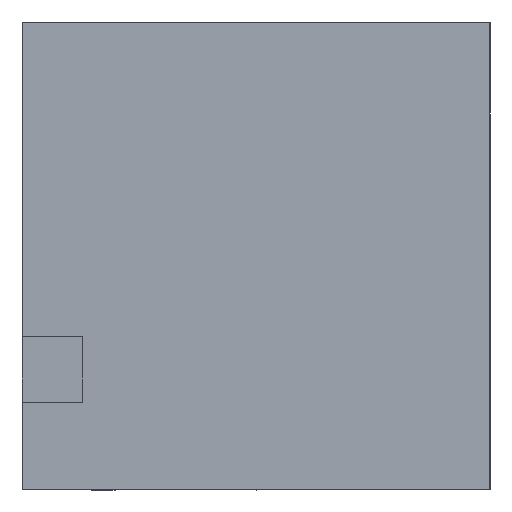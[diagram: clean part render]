
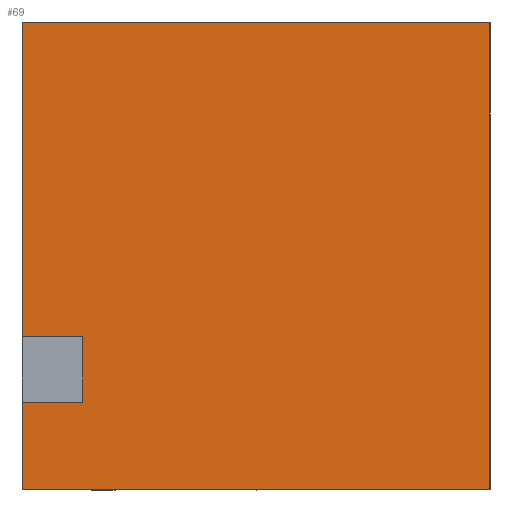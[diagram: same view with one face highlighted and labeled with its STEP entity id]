
A CAD part, left-side view. The second image highlights one B-rep face of the part: STEP entity #69.
In plain terms, the highlighted planar face has unit normal (-1, 0, 0).
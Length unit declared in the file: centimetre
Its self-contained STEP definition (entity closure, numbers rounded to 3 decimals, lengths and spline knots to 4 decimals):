
#8 = VERTEX_POINT ( 'NONE', #66 ) ;
#66 = CARTESIAN_POINT ( 'NONE',  ( 0., 1000., 0. ) ) ;
#69 = ADVANCED_FACE ( 'NONE', ( #660 ), #1407, .F. ) ;
#76 = CARTESIAN_POINT ( 'NONE',  ( 0., 1000., 1000. ) ) ;
#90 = ORIENTED_EDGE ( 'NONE', *, *, #1561, .T. ) ;
#123 = CARTESIAN_POINT ( 'NONE',  ( 0., 0., 0. ) ) ;
#159 = DIRECTION ( 'NONE',  ( 0., 0., -1. ) ) ;
#227 = DIRECTION ( 'NONE',  ( 0., -1., 0. ) ) ;
#276 = DIRECTION ( 'NONE',  ( 0., 0., -1. ) ) ;
#286 = EDGE_CURVE ( 'NONE', #632, #1469, #1591, .T. ) ;
#297 = ORIENTED_EDGE ( 'NONE', *, *, #286, .F. ) ;
#305 = EDGE_CURVE ( 'NONE', #8, #1200, #591, .T. ) ;
#318 = ORIENTED_EDGE ( 'NONE', *, *, #555, .F. ) ;
#323 = DIRECTION ( 'NONE',  ( 0., -1., 0. ) ) ;
#329 = CARTESIAN_POINT ( 'NONE',  ( 0., 870.242, 187.3535 ) ) ;
#370 = DIRECTION ( 'NONE',  ( 1., 0., 0. ) ) ;
#395 = EDGE_CURVE ( 'NONE', #415, #1111, #628, .T. ) ;
#415 = VERTEX_POINT ( 'NONE', #435 ) ;
#435 = CARTESIAN_POINT ( 'NONE',  ( 0., 1000., 187.3535 ) ) ;
#449 = VERTEX_POINT ( 'NONE', #949 ) ;
#457 = VECTOR ( 'NONE', #1606, 100. ) ;
#487 = LINE ( 'NONE', #329, #457 ) ;
#499 = DIRECTION ( 'NONE',  ( 0., 0., -1. ) ) ;
#505 = VERTEX_POINT ( 'NONE', #988 ) ;
#519 = LINE ( 'NONE', #658, #993 ) ;
#555 = EDGE_CURVE ( 'NONE', #1111, #505, #487, .T. ) ;
#559 = DIRECTION ( 'NONE',  ( 0., -1., 0. ) ) ;
#584 = VECTOR ( 'NONE', #559, 100. ) ;
#588 = VECTOR ( 'NONE', #897, 100. ) ;
#591 = LINE ( 'NONE', #977, #1413 ) ;
#628 = LINE ( 'NONE', #1550, #584 ) ;
#632 = VERTEX_POINT ( 'NONE', #76 ) ;
#644 = ORIENTED_EDGE ( 'NONE', *, *, #775, .T. ) ;
#658 = CARTESIAN_POINT ( 'NONE',  ( 0., 870.242, 328.1472 ) ) ;
#659 = EDGE_CURVE ( 'NONE', #505, #449, #519, .T. ) ;
#660 = FACE_OUTER_BOUND ( 'NONE', #1089, .T. ) ;
#775 = EDGE_CURVE ( 'NONE', #632, #449, #1652, .T. ) ;
#806 = VECTOR ( 'NONE', #499, 100. ) ;
#872 = ORIENTED_EDGE ( 'NONE', *, *, #906, .F. ) ;
#897 = DIRECTION ( 'NONE',  ( 0., 0., -1. ) ) ;
#906 = EDGE_CURVE ( 'NONE', #1469, #1200, #1445, .T. ) ;
#912 = CARTESIAN_POINT ( 'NONE',  ( 0., 1000., 1000. ) ) ;
#949 = CARTESIAN_POINT ( 'NONE',  ( 0., 1000., 328.1472 ) ) ;
#977 = CARTESIAN_POINT ( 'NONE',  ( 0., 1000., 0. ) ) ;
#978 = CARTESIAN_POINT ( 'NONE',  ( 0., 0., 1000. ) ) ;
#988 = CARTESIAN_POINT ( 'NONE',  ( 0., 870.242, 328.1472 ) ) ;
#990 = AXIS2_PLACEMENT_3D ( 'NONE', #1541, #370, #276 ) ;
#993 = VECTOR ( 'NONE', #1272, 100. ) ;
#1001 = ORIENTED_EDGE ( 'NONE', *, *, #305, .T. ) ;
#1009 = CARTESIAN_POINT ( 'NONE',  ( 0., 1000., 1000. ) ) ;
#1089 = EDGE_LOOP ( 'NONE', ( #318, #1610, #90, #1001, #872, #297, #644, #1481 ) ) ;
#1111 = VERTEX_POINT ( 'NONE', #1594 ) ;
#1112 = CARTESIAN_POINT ( 'NONE',  ( 0., 1000., 1000. ) ) ;
#1124 = VECTOR ( 'NONE', #323, 100. ) ;
#1142 = LINE ( 'NONE', #1009, #806 ) ;
#1200 = VERTEX_POINT ( 'NONE', #123 ) ;
#1209 = CARTESIAN_POINT ( 'NONE',  ( 0., 0., 1000. ) ) ;
#1272 = DIRECTION ( 'NONE',  ( 0., 1., 0. ) ) ;
#1407 = PLANE ( 'NONE',  #990 ) ;
#1413 = VECTOR ( 'NONE', #227, 100. ) ;
#1445 = LINE ( 'NONE', #1209, #1553 ) ;
#1469 = VERTEX_POINT ( 'NONE', #978 ) ;
#1481 = ORIENTED_EDGE ( 'NONE', *, *, #659, .F. ) ;
#1541 = CARTESIAN_POINT ( 'NONE',  ( 0., 1000., 1000. ) ) ;
#1550 = CARTESIAN_POINT ( 'NONE',  ( 0., 870.242, 187.3535 ) ) ;
#1553 = VECTOR ( 'NONE', #159, 100. ) ;
#1561 = EDGE_CURVE ( 'NONE', #415, #8, #1142, .T. ) ;
#1591 = LINE ( 'NONE', #1112, #1124 ) ;
#1594 = CARTESIAN_POINT ( 'NONE',  ( 0., 870.242, 187.3535 ) ) ;
#1606 = DIRECTION ( 'NONE',  ( 0., 0., 1. ) ) ;
#1610 = ORIENTED_EDGE ( 'NONE', *, *, #395, .F. ) ;
#1652 = LINE ( 'NONE', #912, #588 ) ;
